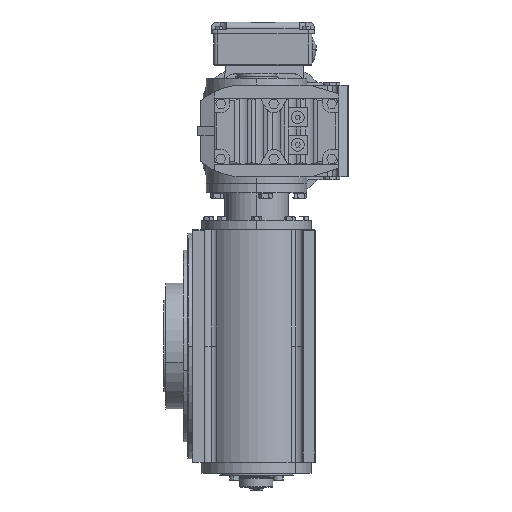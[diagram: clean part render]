
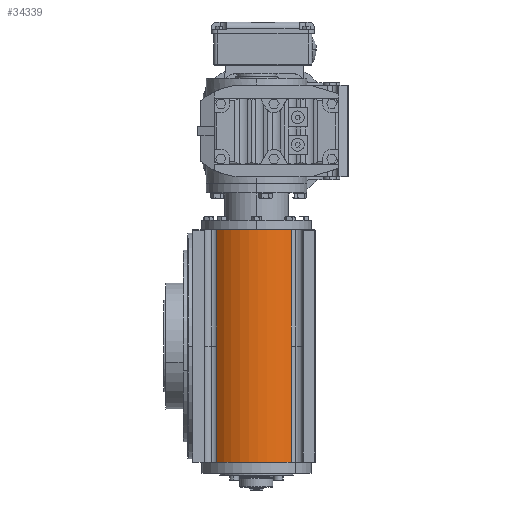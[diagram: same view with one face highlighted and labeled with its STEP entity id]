
A CAD part, left-side view. The second image highlights one B-rep face of the part: STEP entity #34339.
In plain terms, the highlighted cylindrical face has radius 60 mm (diameter 120 mm), a partial arc.
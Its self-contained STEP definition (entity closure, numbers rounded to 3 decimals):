
#142 = EDGE_CURVE ( 'NONE', #15623, #80158, #44432, .T. ) ;
#1373 = EDGE_CURVE ( 'NONE', #15623, #38924, #55361, .T. ) ;
#3007 = CARTESIAN_POINT ( 'NONE',  ( -126.602, 107.235, -127. ) ) ;
#3163 = EDGE_CURVE ( 'NONE', #52311, #83726, #37800, .T. ) ;
#3229 = DIRECTION ( 'NONE',  ( -1., 0., 0. ) ) ;
#8005 = EDGE_CURVE ( 'NONE', #52311, #43494, #23494, .T. ) ;
#9695 = VECTOR ( 'NONE', #70038, 1000. ) ;
#10669 = AXIS2_PLACEMENT_3D ( 'NONE', #51773, #32598, #57330 ) ;
#12397 = EDGE_LOOP ( 'NONE', ( #69157, #25489, #71955, #45635, #17222, #30132 ) ) ;
#15574 = DIRECTION ( 'NONE',  ( 0., 0., -1. ) ) ;
#15623 = VERTEX_POINT ( 'NONE', #83410 ) ;
#16006 = CARTESIAN_POINT ( 'NONE',  ( -85., 64., -127. ) ) ;
#17222 = ORIENTED_EDGE ( 'NONE', *, *, #48049, .T. ) ;
#21064 = CARTESIAN_POINT ( 'NONE',  ( -131.481, 26.059, -121.981 ) ) ;
#22624 = CYLINDRICAL_SURFACE ( 'NONE', #32431, 60. ) ;
#23494 = LINE ( 'NONE', #36313, #49179 ) ;
#24218 = CARTESIAN_POINT ( 'NONE',  ( -126.602, 107.235, 0. ) ) ;
#25489 = ORIENTED_EDGE ( 'NONE', *, *, #71966, .T. ) ;
#27656 = CARTESIAN_POINT ( 'NONE',  ( -126.602, 107.235, 127. ) ) ;
#30132 = ORIENTED_EDGE ( 'NONE', *, *, #142, .F. ) ;
#30513 = VECTOR ( 'NONE', #42112, 1000. ) ;
#31245 = LINE ( 'NONE', #44009, #9695 ) ;
#31818 = CARTESIAN_POINT ( 'NONE',  ( -131.481, 26.059, 0. ) ) ;
#32431 = AXIS2_PLACEMENT_3D ( 'NONE', #37929, #64762, #51538 ) ;
#32598 = DIRECTION ( 'NONE',  ( 0., 0., 1. ) ) ;
#34339 = ADVANCED_FACE ( 'NONE', ( #48618 ), #22624, .T. ) ;
#36313 = CARTESIAN_POINT ( 'NONE',  ( -126.602, 107.235, -121.981 ) ) ;
#37800 = CIRCLE ( 'NONE', #10669, 60. ) ;
#37929 = CARTESIAN_POINT ( 'NONE',  ( -85., 64., -121.981 ) ) ;
#38924 = VERTEX_POINT ( 'NONE', #31818 ) ;
#42112 = DIRECTION ( 'NONE',  ( 0., 0., 1. ) ) ;
#43494 = VERTEX_POINT ( 'NONE', #24218 ) ;
#44009 = CARTESIAN_POINT ( 'NONE',  ( -126.602, 107.235, -121.981 ) ) ;
#44432 = CIRCLE ( 'NONE', #48500, 60. ) ;
#45635 = ORIENTED_EDGE ( 'NONE', *, *, #8005, .T. ) ;
#48049 = EDGE_CURVE ( 'NONE', #43494, #80158, #31245, .T. ) ;
#48500 = AXIS2_PLACEMENT_3D ( 'NONE', #16006, #15574, #3229 ) ;
#48618 = FACE_OUTER_BOUND ( 'NONE', #12397, .T. ) ;
#49179 = VECTOR ( 'NONE', #70000, 1000. ) ;
#51538 = DIRECTION ( 'NONE',  ( 1., 0., 0. ) ) ;
#51773 = CARTESIAN_POINT ( 'NONE',  ( -85., 64., 127. ) ) ;
#52311 = VERTEX_POINT ( 'NONE', #27656 ) ;
#55361 = LINE ( 'NONE', #55786, #30513 ) ;
#55786 = CARTESIAN_POINT ( 'NONE',  ( -131.481, 26.059, -121.981 ) ) ;
#57330 = DIRECTION ( 'NONE',  ( 1., 0., 0. ) ) ;
#64762 = DIRECTION ( 'NONE',  ( 0., 0., 1. ) ) ;
#66679 = DIRECTION ( 'NONE',  ( 0., 0., 1. ) ) ;
#69157 = ORIENTED_EDGE ( 'NONE', *, *, #1373, .T. ) ;
#70000 = DIRECTION ( 'NONE',  ( 0., 0., -1. ) ) ;
#70038 = DIRECTION ( 'NONE',  ( 0., 0., -1. ) ) ;
#71955 = ORIENTED_EDGE ( 'NONE', *, *, #3163, .F. ) ;
#71966 = EDGE_CURVE ( 'NONE', #38924, #83726, #73547, .T. ) ;
#73547 = LINE ( 'NONE', #21064, #77358 ) ;
#77358 = VECTOR ( 'NONE', #66679, 1000. ) ;
#77916 = CARTESIAN_POINT ( 'NONE',  ( -131.481, 26.059, 127. ) ) ;
#80158 = VERTEX_POINT ( 'NONE', #3007 ) ;
#83410 = CARTESIAN_POINT ( 'NONE',  ( -131.481, 26.059, -127. ) ) ;
#83726 = VERTEX_POINT ( 'NONE', #77916 ) ;
